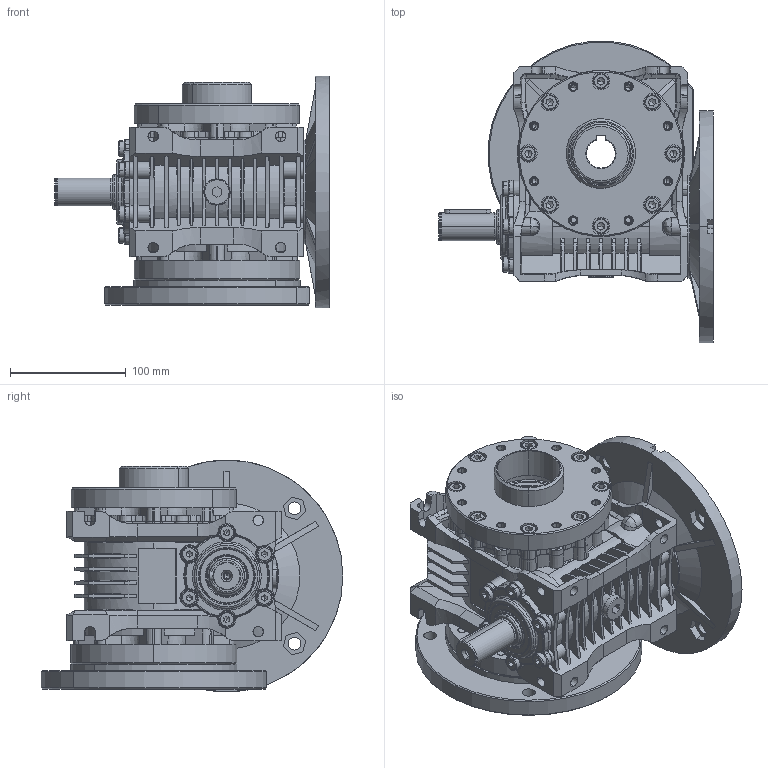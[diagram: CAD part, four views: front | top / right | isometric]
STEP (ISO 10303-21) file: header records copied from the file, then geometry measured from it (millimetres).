
FILE_DESCRIPTION (( 'STEP AP203' ), '1' );
FILE_NAME ('MRP-63_200-24-WBS-SO_1-KM_1-3D.STEP', '2024-10-28T13:58:21', ( '' ), ( '' ), 'SwSTEP 2.0', 'SolidWorks 2022', '' );
FILE_SCHEMA (( 'CONFIG_CONTROL_DESIGN' ));
Products named in the file (1): MRP-63_200-24-WBS-SO_1-KM_1-3D
Bounding box: 237 x 260.14 x 200 mm (x, y, z)
Volume: 3068837.3 mm3; surface area: 528096.8 mm2
Topology: 1 solids, 98 shells, 4003 faces, 9851 edges, 6103 vertices
Faces by surface type: plane 1539, cone 968, cylinder 830, torus 382, bspline 246, sphere 38
Entity records: 125573 total; most frequent: CARTESIAN_POINT 32707, DIRECTION 19645, ORIENTED_EDGE 19438, EDGE_CURVE 9719, AXIS2_PLACEMENT_3D 7613, VERTEX_POINT 6103, VECTOR 4419, LINE 4419
